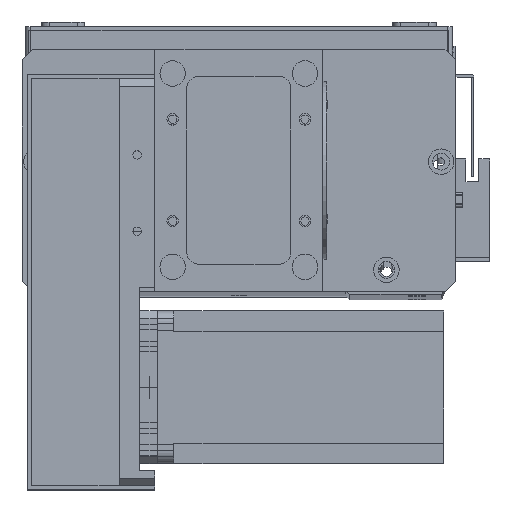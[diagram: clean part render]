
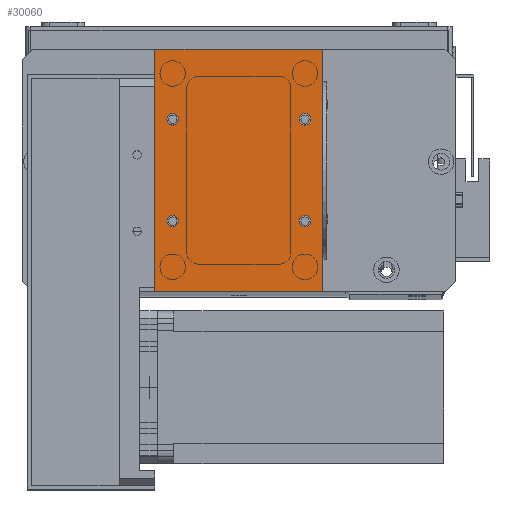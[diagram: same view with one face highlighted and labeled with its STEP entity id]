
A CAD part, top view. The second image highlights one B-rep face of the part: STEP entity #30060.
In plain terms, the highlighted planar face has unit normal (0, 0, 1).
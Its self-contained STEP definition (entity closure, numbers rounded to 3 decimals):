
#409 = CARTESIAN_POINT ( 'NONE',  ( 0., 95., 2. ) ) ;
#1479 = AXIS2_PLACEMENT_3D ( 'NONE', #26147, #25937, #25819 ) ;
#1792 = CARTESIAN_POINT ( 'NONE',  ( 59., 67.5, 2. ) ) ;
#1975 = EDGE_CURVE ( 'NONE', #13174, #29783, #25161, .T. ) ;
#2092 = DIRECTION ( 'NONE',  ( 1., 0., 0. ) ) ;
#2100 = AXIS2_PLACEMENT_3D ( 'NONE', #23986, #9093, #26479 ) ;
#2240 = ORIENTED_EDGE ( 'NONE', *, *, #10778, .F. ) ;
#2286 = VERTEX_POINT ( 'NONE', #20991 ) ;
#2467 = ORIENTED_EDGE ( 'NONE', *, *, #12054, .F. ) ;
#2603 = ORIENTED_EDGE ( 'NONE', *, *, #8156, .T. ) ;
#2633 = CARTESIAN_POINT ( 'NONE',  ( 0., 95., 2. ) ) ;
#2784 = VECTOR ( 'NONE', #22484, 1000. ) ;
#2921 = EDGE_LOOP ( 'NONE', ( #12647, #2467 ) ) ;
#2927 = DIRECTION ( 'NONE',  ( 0., 0., 1. ) ) ;
#3121 = EDGE_CURVE ( 'NONE', #28653, #29556, #17396, .T. ) ;
#3399 = VECTOR ( 'NONE', #25565, 1000. ) ;
#3665 = CARTESIAN_POINT ( 'NONE',  ( 9.25, 67.5, 2. ) ) ;
#4264 = DIRECTION ( 'NONE',  ( 1., 0., 0. ) ) ;
#4460 = CIRCLE ( 'NONE', #5014, 2.25 ) ;
#4622 = CIRCLE ( 'NONE', #2100, 2.25 ) ;
#4804 = DIRECTION ( 'NONE',  ( 0., 0., 1. ) ) ;
#4969 = LINE ( 'NONE', #5016, #18168 ) ;
#5014 = AXIS2_PLACEMENT_3D ( 'NONE', #31768, #16964, #2092 ) ;
#5016 = CARTESIAN_POINT ( 'NONE',  ( 66., 0., 2. ) ) ;
#5101 = CARTESIAN_POINT ( 'NONE',  ( 0., 0., 2. ) ) ;
#5640 = AXIS2_PLACEMENT_3D ( 'NONE', #1792, #19119, #4264 ) ;
#6164 = CARTESIAN_POINT ( 'NONE',  ( 4.75, 67.5, 2. ) ) ;
#6379 = EDGE_LOOP ( 'NONE', ( #22638, #20836 ) ) ;
#6562 = DIRECTION ( 'NONE',  ( 0., 0., 1. ) ) ;
#6922 = VERTEX_POINT ( 'NONE', #25951 ) ;
#7313 = DIRECTION ( 'NONE',  ( 0., 0., -1. ) ) ;
#7363 = DIRECTION ( 'NONE',  ( 0., 1., 0. ) ) ;
#8006 = AXIS2_PLACEMENT_3D ( 'NONE', #22202, #7313, #24715 ) ;
#8156 = EDGE_CURVE ( 'NONE', #30623, #28121, #4969, .T. ) ;
#8357 = EDGE_LOOP ( 'NONE', ( #11394, #2240 ) ) ;
#9093 = DIRECTION ( 'NONE',  ( 0., 0., 1. ) ) ;
#9447 = ORIENTED_EDGE ( 'NONE', *, *, #18607, .F. ) ;
#9605 = CARTESIAN_POINT ( 'NONE',  ( 0., 0., 2. ) ) ;
#10778 = EDGE_CURVE ( 'NONE', #16823, #30173, #27760, .T. ) ;
#11193 = ORIENTED_EDGE ( 'NONE', *, *, #3121, .T. ) ;
#11198 = VERTEX_POINT ( 'NONE', #22008 ) ;
#11275 = CIRCLE ( 'NONE', #25737, 2.25 ) ;
#11394 = ORIENTED_EDGE ( 'NONE', *, *, #11665, .F. ) ;
#11665 = EDGE_CURVE ( 'NONE', #30173, #16823, #21884, .T. ) ;
#11845 = DIRECTION ( 'NONE',  ( 0., 0., 1. ) ) ;
#12054 = EDGE_CURVE ( 'NONE', #2286, #11198, #19900, .T. ) ;
#12647 = ORIENTED_EDGE ( 'NONE', *, *, #27890, .F. ) ;
#13174 = VERTEX_POINT ( 'NONE', #3665 ) ;
#13443 = EDGE_LOOP ( 'NONE', ( #23250, #9447 ) ) ;
#14750 = CARTESIAN_POINT ( 'NONE',  ( 56.75, 27.5, 2. ) ) ;
#15160 = CARTESIAN_POINT ( 'NONE',  ( 61.25, 27.5, 2. ) ) ;
#15819 = EDGE_CURVE ( 'NONE', #28121, #28653, #30702, .T. ) ;
#16351 = FACE_OUTER_BOUND ( 'NONE', #26645, .T. ) ;
#16823 = VERTEX_POINT ( 'NONE', #14750 ) ;
#16964 = DIRECTION ( 'NONE',  ( 0., 0., 1. ) ) ;
#17127 = FACE_BOUND ( 'NONE', #6379, .T. ) ;
#17357 = CIRCLE ( 'NONE', #5640, 2.25 ) ;
#17396 = LINE ( 'NONE', #28492, #3399 ) ;
#17800 = CARTESIAN_POINT ( 'NONE',  ( 59., 27.5, 2. ) ) ;
#18168 = VECTOR ( 'NONE', #7363, 1000. ) ;
#18376 = ORIENTED_EDGE ( 'NONE', *, *, #15819, .T. ) ;
#18607 = EDGE_CURVE ( 'NONE', #23259, #6922, #4622, .T. ) ;
#19092 = AXIS2_PLACEMENT_3D ( 'NONE', #26718, #11845, #29181 ) ;
#19119 = DIRECTION ( 'NONE',  ( 0., 0., 1. ) ) ;
#19590 = DIRECTION ( 'NONE',  ( 1., 0., 0. ) ) ;
#19657 = CARTESIAN_POINT ( 'NONE',  ( 59., 27.5, 2. ) ) ;
#19850 = EDGE_CURVE ( 'NONE', #6922, #23259, #17357, .T. ) ;
#19900 = CIRCLE ( 'NONE', #19092, 2.25 ) ;
#20055 = CARTESIAN_POINT ( 'NONE',  ( 66., 95., 2. ) ) ;
#20260 = DIRECTION ( 'NONE',  ( 1., 0., 0. ) ) ;
#20836 = ORIENTED_EDGE ( 'NONE', *, *, #30477, .F. ) ;
#20865 = CARTESIAN_POINT ( 'NONE',  ( 56.75, 67.5, 2. ) ) ;
#20991 = CARTESIAN_POINT ( 'NONE',  ( 4.75, 27.5, 2. ) ) ;
#21363 = LINE ( 'NONE', #9605, #27964 ) ;
#21414 = CARTESIAN_POINT ( 'NONE',  ( 7., 67.5, 2. ) ) ;
#21884 = CIRCLE ( 'NONE', #31931, 2.25 ) ;
#22008 = CARTESIAN_POINT ( 'NONE',  ( 9.25, 27.5, 2. ) ) ;
#22154 = DIRECTION ( 'NONE',  ( 1., 0., 0. ) ) ;
#22202 = CARTESIAN_POINT ( 'NONE',  ( 0., 0., 2. ) ) ;
#22484 = DIRECTION ( 'NONE',  ( -1., 0., 0. ) ) ;
#22638 = ORIENTED_EDGE ( 'NONE', *, *, #1975, .F. ) ;
#22715 = ORIENTED_EDGE ( 'NONE', *, *, #23047, .T. ) ;
#22933 = FACE_BOUND ( 'NONE', #2921, .T. ) ;
#23047 = EDGE_CURVE ( 'NONE', #29556, #30623, #21363, .T. ) ;
#23250 = ORIENTED_EDGE ( 'NONE', *, *, #19850, .F. ) ;
#23259 = VERTEX_POINT ( 'NONE', #20865 ) ;
#23733 = FACE_BOUND ( 'NONE', #8357, .T. ) ;
#23937 = DIRECTION ( 'NONE',  ( 1., 0., 0. ) ) ;
#23986 = CARTESIAN_POINT ( 'NONE',  ( 59., 67.5, 2. ) ) ;
#24715 = DIRECTION ( 'NONE',  ( -1., 0., 0. ) ) ;
#25161 = CIRCLE ( 'NONE', #1479, 2.25 ) ;
#25565 = DIRECTION ( 'NONE',  ( 0., -1., 0. ) ) ;
#25737 = AXIS2_PLACEMENT_3D ( 'NONE', #21414, #6562, #23937 ) ;
#25819 = DIRECTION ( 'NONE',  ( 1., 0., 0. ) ) ;
#25937 = DIRECTION ( 'NONE',  ( 0., 0., 1. ) ) ;
#25951 = CARTESIAN_POINT ( 'NONE',  ( 61.25, 67.5, 2. ) ) ;
#26147 = CARTESIAN_POINT ( 'NONE',  ( 7., 67.5, 2. ) ) ;
#26479 = DIRECTION ( 'NONE',  ( 1., 0., 0. ) ) ;
#26645 = EDGE_LOOP ( 'NONE', ( #11193, #22715, #2603, #18376 ) ) ;
#26718 = CARTESIAN_POINT ( 'NONE',  ( 7., 27.5, 2. ) ) ;
#27393 = CARTESIAN_POINT ( 'NONE',  ( 66., 0., 2. ) ) ;
#27760 = CIRCLE ( 'NONE', #32128, 2.25 ) ;
#27890 = EDGE_CURVE ( 'NONE', #11198, #2286, #4460, .T. ) ;
#27964 = VECTOR ( 'NONE', #19590, 1000. ) ;
#28121 = VERTEX_POINT ( 'NONE', #20055 ) ;
#28492 = CARTESIAN_POINT ( 'NONE',  ( 0., 0., 2. ) ) ;
#28653 = VERTEX_POINT ( 'NONE', #409 ) ;
#29181 = DIRECTION ( 'NONE',  ( 1., 0., 0. ) ) ;
#29523 = FACE_BOUND ( 'NONE', #13443, .T. ) ;
#29556 = VERTEX_POINT ( 'NONE', #5101 ) ;
#29564 = PLANE ( 'NONE',  #8006 ) ;
#29783 = VERTEX_POINT ( 'NONE', #6164 ) ;
#30060 = ADVANCED_FACE ( 'NONE', ( #17127, #29523, #23733, #22933, #16351 ), #29564, .F. ) ;
#30173 = VERTEX_POINT ( 'NONE', #15160 ) ;
#30477 = EDGE_CURVE ( 'NONE', #29783, #13174, #11275, .T. ) ;
#30623 = VERTEX_POINT ( 'NONE', #27393 ) ;
#30702 = LINE ( 'NONE', #2633, #2784 ) ;
#31768 = CARTESIAN_POINT ( 'NONE',  ( 7., 27.5, 2. ) ) ;
#31931 = AXIS2_PLACEMENT_3D ( 'NONE', #19657, #4804, #22154 ) ;
#32128 = AXIS2_PLACEMENT_3D ( 'NONE', #17800, #2927, #20260 ) ;
